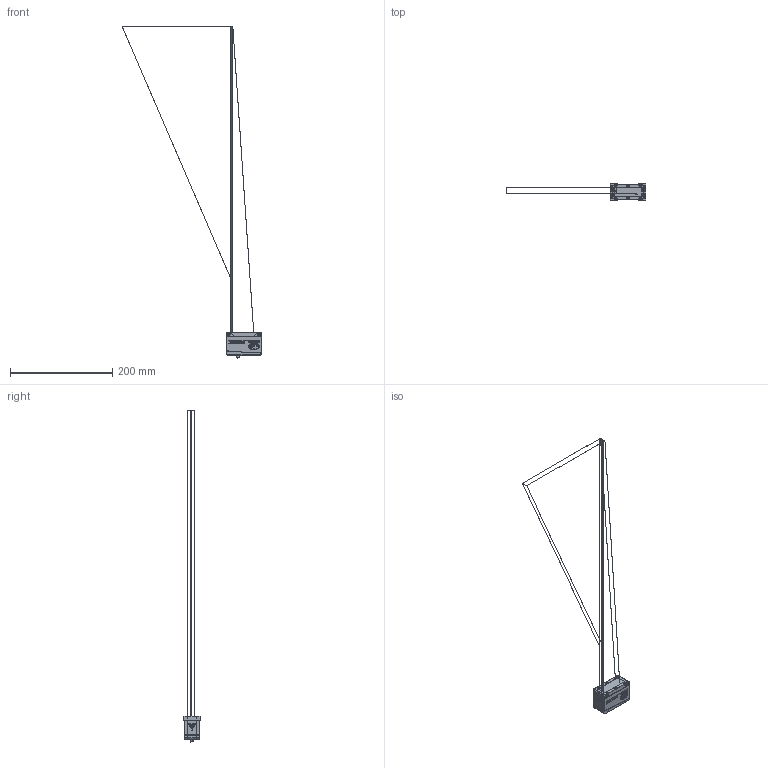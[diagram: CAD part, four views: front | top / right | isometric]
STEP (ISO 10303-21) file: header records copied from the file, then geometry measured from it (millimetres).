
FILE_DESCRIPTION (( 'STEP AP214' ), '1' );
FILE_NAME ('free_space_optoNCDT_1900-500.STEP', '2020-05-06T14:35:51', ( '' ), ( '' ), 'SwSTEP 2.0', 'SolidWorks 2018', '' );
FILE_SCHEMA (( 'AUTOMOTIVE_DESIGN' ));
Length unit declared in the file: millimetre
Products named in the file (2): free_space_optoNCDT_1900-500
Bounding box: 274.18 x 32 x 650.84 mm (x, y, z)
Volume: 96596.7 mm3; surface area: 19114.4 mm2
Topology: 4 solids, 4 shells, 2230 faces, 5826 edges, 3722 vertices
Faces by surface type: plane 964, bspline 813, cylinder 271, torus 87, cone 87, sphere 8
Entity records: 107389 total; most frequent: CARTESIAN_POINT 33911, ORIENTED_EDGE 11596, DIRECTION 7604, EDGE_CURVE 5798, VERTEX_POINT 3722, VECTOR 3306, LINE 3306, EDGE_LOOP 2382
